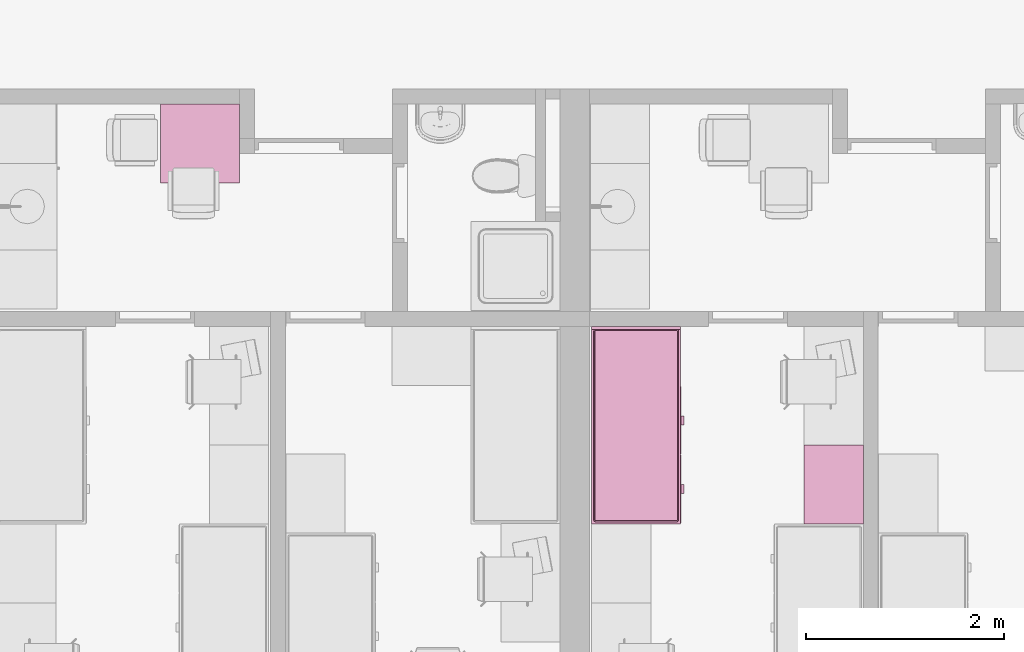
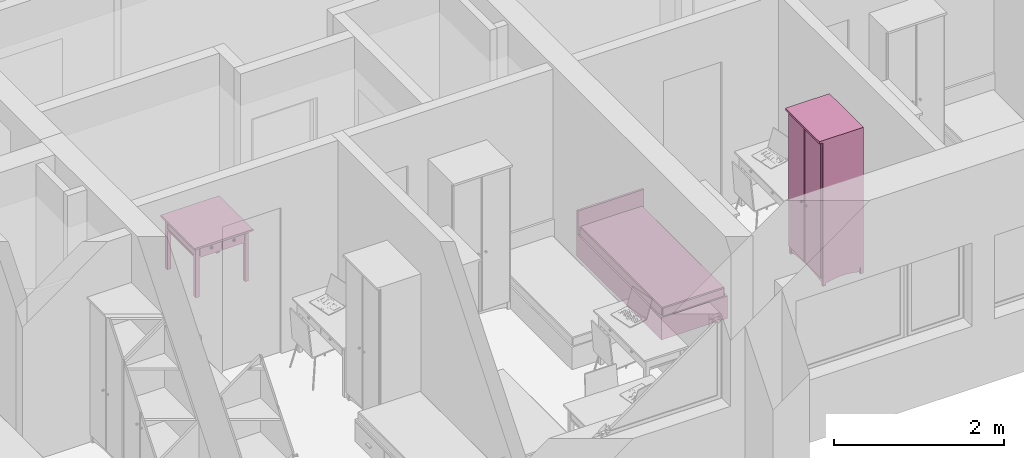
# One storey, part 64 of 165: 3 furnishings.
"""IFC2X3 building model written with IfcOpenShell, lengths in millimetres."""

from ifc_helpers import new_model, entity, si_unit, converted_unit, money_unit, direction, frame, origin_with_axes, place, context, subcontext, project, spatial, faceted_brep, source, transform, mapped, material, material_list, type_object, element, save


model = new_model("IFC2X3")

# Units and contexts
model_context = context("Model", 3, precision=1e-05, world=origin_with_axes(), true_north=direction((0.0, 1.0)))
body_context = subcontext(model_context, "Body", "Model", "MODEL_VIEW")
ifc_project = project(units=[si_unit("LENGTHUNIT", "METRE", prefix="MILLI"), si_unit("AREAUNIT", "SQUARE_METRE"), si_unit("VOLUMEUNIT", "CUBIC_METRE"), converted_unit("PLANEANGLEUNIT", "DEGREE", entity("IfcPlaneAngleMeasure", 0.0174532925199), si_unit("PLANEANGLEUNIT", "RADIAN"), dimensions=[0, 0, 0, 0, 0, 0, 0]), si_unit("SOLIDANGLEUNIT", "STERADIAN"), money_unit("USD"), converted_unit("TIMEUNIT", "Year", entity("IfcTimeMeasure", 31556926.0), si_unit("TIMEUNIT", "SECOND"), dimensions=[0, 0, 0, 0, 0, 0, 0]), si_unit("MASSUNIT", "GRAM"), si_unit("THERMODYNAMICTEMPERATUREUNIT", "DEGREE_CELSIUS"), si_unit("LUMINOUSINTENSITYUNIT", "LUMEN")], contexts=[model_context])

# Site, building, storey
site_placement = place(None, origin_with_axes())
site = spatial("IfcSite", under=ifc_project, at=site_placement, Name="Site", CompositionType="ELEMENT")
building_placement = place(site_placement, origin_with_axes())
building = spatial("IfcBuilding", under=site, at=building_placement, Name="Building", CompositionType="ELEMENT")
storey_placement = place(building_placement, frame((0.0, 0.0, 6300.0), z_axis=(0.0, 0.0, 1.0), x_axis=(1.0, 0.0, 0.0)))
storey = spatial("IfcBuildingStorey", under=building, at=storey_placement, Name="4KORRUS", CompositionType="ELEMENT", Elevation=6300.0)

# Furnishings
ifc_material = material(Name="Background")
ifc_material_list = material_list([ifc_material])
furnishing_element_type_1 = type_object("IfcFurnishingElementType", Name="Bed 19")
shared_shape_1 = source(origin_with_axes(), body_context, "Body", "Brep", [
    faceted_brep([(900.0, 1970.0, 0.0), (0.0, 1970.0, 0.0), (0.0, 2000.0, 0.0), (900.0, 2000.0, 0.0), (900.0, 1970.0, 660.0), (0.0, 1970.0, 660.0), (0.0, 2000.0, 660.0), (900.0, 2000.0, 660.0)], [[[0, 1, 2, 3]], [[1, 0, 4, 5]], [[2, 1, 5, 6]], [[3, 2, 6, 7]], [[0, 3, 7, 4]], [[5, 4, 7, 6]]]),
    faceted_brep([(900.0, 0.0, 0.0), (0.0, 0.0, 0.0), (0.0, 1970.0, 0.0), (900.0, 1970.0, 0.0), (900.0, 0.0, 320.0), (0.0, 0.0, 320.0), (0.0, 1970.0, 320.0), (900.0, 1970.0, 320.0)], [[[0, 1, 2, 3]], [[1, 0, 4, 5]], [[2, 1, 5, 6]], [[3, 2, 6, 7]], [[0, 3, 7, 4]], [[5, 4, 7, 6]]]),
    faceted_brep([(905.0, 10.0, 30.0), (900.0, 10.0, 30.0), (900.0, 695.0, 30.0), (905.0, 695.0, 30.0), (905.0, 10.0, 290.0), (900.0, 10.0, 290.0), (900.0, 695.0, 290.0), (905.0, 695.0, 290.0)], [[[0, 1, 2, 3]], [[1, 0, 4, 5]], [[2, 1, 5, 6]], [[3, 2, 6, 7]], [[0, 3, 7, 4]], [[5, 4, 7, 6]]]),
    faceted_brep([(935.0, 307.5, 150.0), (905.0, 307.5, 150.0), (905.0, 397.5, 150.0), (935.0, 397.5, 150.0), (935.0, 307.5, 170.0), (905.0, 307.5, 170.0), (905.0, 397.5, 170.0), (935.0, 397.5, 170.0)], [[[0, 1, 2, 3]], [[1, 0, 4, 5]], [[2, 1, 5, 6]], [[3, 2, 6, 7]], [[0, 3, 7, 4]], [[5, 4, 7, 6]]]),
    faceted_brep([(905.0, 705.0, 30.0), (900.0, 705.0, 30.0), (900.0, 1390.0, 30.0), (905.0, 1390.0, 30.0), (905.0, 705.0, 290.0), (900.0, 705.0, 290.0), (900.0, 1390.0, 290.0), (905.0, 1390.0, 290.0)], [[[0, 1, 2, 3]], [[1, 0, 4, 5]], [[2, 1, 5, 6]], [[3, 2, 6, 7]], [[0, 3, 7, 4]], [[5, 4, 7, 6]]]),
    faceted_brep([(935.0, 1002.5, 150.0), (905.0, 1002.5, 150.0), (905.0, 1092.5, 150.0), (935.0, 1092.5, 150.0), (935.0, 1002.5, 170.0), (905.0, 1002.5, 170.0), (905.0, 1092.5, 170.0), (935.0, 1092.5, 170.0)], [[[0, 1, 2, 3]], [[1, 0, 4, 5]], [[2, 1, 5, 6]], [[3, 2, 6, 7]], [[0, 3, 7, 4]], [[5, 4, 7, 6]]]),
    faceted_brep([(20.0, 40.0, 350.0), (20.0, 1950.0, 350.0), (21.522, 1957.654, 350.0), (25.858, 1964.142, 350.0), (32.346, 1968.478, 350.0), (40.0, 1970.0, 350.0), (860.0, 1970.0, 350.0), (867.654, 1968.478, 350.0), (874.142, 1964.142, 350.0), (878.478, 1957.654, 350.0), (880.0, 1950.0, 350.0), (880.0, 40.0, 350.0), (878.478, 32.346, 350.0), (874.142, 25.858, 350.0), (867.654, 21.522, 350.0), (860.0, 20.0, 350.0), (40.0, 20.0, 350.0), (32.346, 21.522, 350.0), (25.858, 25.858, 350.0), (21.522, 32.346, 350.0), (20.0, 40.0, 420.0), (20.0, 1950.0, 420.0), (21.522, 1957.654, 420.0), (25.858, 1964.142, 420.0), (32.346, 1968.478, 420.0), (40.0, 1970.0, 420.0), (860.0, 1970.0, 420.0), (867.654, 1968.478, 420.0), (874.142, 1964.142, 420.0), (878.478, 1957.654, 420.0), (880.0, 1950.0, 420.0), (880.0, 40.0, 420.0), (878.478, 32.346, 420.0), (874.142, 25.858, 420.0), (867.654, 21.522, 420.0), (860.0, 20.0, 420.0), (40.0, 20.0, 420.0), (32.346, 21.522, 420.0), (25.858, 25.858, 420.0), (21.522, 32.346, 420.0), (21.522, 40.15, 427.654), (21.522, 1949.85, 427.654), (22.956, 1957.06, 427.654), (26.955, 1963.045, 427.654), (32.94, 1967.044, 427.654), (40.15, 1968.478, 427.654), (859.85, 1968.478, 427.654), (867.06, 1967.044, 427.654), (873.045, 1963.045, 427.654), (877.044, 1957.06, 427.654), (878.478, 1949.85, 427.654), (878.478, 40.15, 427.654), (877.044, 32.94, 427.654), (873.045, 26.955, 427.654), (867.06, 22.956, 427.654), (859.85, 21.522, 427.654), (40.15, 21.522, 427.654), (32.94, 22.956, 427.654), (26.955, 26.955, 427.654), (22.956, 32.94, 427.654), (32.346, 41.216, 438.478), (32.346, 1948.784, 438.478), (33.152, 1952.836, 438.478), (34.759, 1955.241, 438.478), (37.164, 1956.848, 438.478), (41.216, 1957.654, 438.478), (858.784, 1957.654, 438.478), (862.836, 1956.848, 438.478), (865.241, 1955.241, 438.478), (866.848, 1952.836, 438.478), (867.654, 1948.784, 438.478), (867.654, 41.216, 438.478), (866.848, 37.164, 438.478), (865.241, 34.759, 438.478), (862.836, 33.152, 438.478), (858.784, 32.346, 438.478), (41.216, 32.346, 438.478), (37.164, 33.152, 438.478), (34.759, 34.759, 438.478), (33.152, 37.164, 438.478), (40.0, 41.97, 440.0), (40.0, 1948.03, 440.0), (40.327, 1949.673, 440.0), (40.0, 1950.0, 439.924), (41.97, 1950.0, 440.0), (858.03, 1950.0, 440.0), (859.673, 1949.673, 440.0), (860.0, 1950.0, 439.924), (860.0, 1948.03, 440.0), (860.0, 41.97, 440.0), (859.673, 40.327, 440.0), (860.0, 40.0, 439.924), (858.03, 40.0, 440.0), (41.97, 40.0, 440.0), (40.327, 40.327, 440.0), (40.0, 40.0, 439.924)], [[[0, 1, 2, 3, 4, 5, 6, 7, 8, 9, 10, 11, 12, 13, 14, 15, 16, 17, 18, 19]], [[1, 0, 20, 21]], [[2, 1, 21, 22]], [[3, 2, 22, 23]], [[4, 3, 23, 24]], [[5, 4, 24, 25]], [[6, 5, 25, 26]], [[7, 6, 26, 27]], [[8, 7, 27, 28]], [[9, 8, 28, 29]], [[10, 9, 29, 30]], [[11, 10, 30, 31]], [[12, 11, 31, 32]], [[13, 12, 32, 33]], [[14, 13, 33, 34]], [[15, 14, 34, 35]], [[16, 15, 35, 36]], [[17, 16, 36, 37]], [[18, 17, 37, 38]], [[19, 18, 38, 39]], [[0, 19, 39, 20]], [[21, 20, 40, 41]], [[22, 21, 41, 42]], [[23, 22, 42, 43]], [[24, 23, 43, 44]], [[25, 24, 44, 45]], [[26, 25, 45, 46]], [[27, 26, 46, 47]], [[28, 27, 47, 48]], [[29, 28, 48, 49]], [[30, 29, 49, 50]], [[31, 30, 50, 51]], [[32, 31, 51, 52]], [[33, 32, 52, 53]], [[34, 33, 53, 54]], [[35, 34, 54, 55]], [[36, 35, 55, 56]], [[37, 36, 56, 57]], [[38, 37, 57, 58]], [[39, 38, 58, 59]], [[20, 39, 59, 40]], [[41, 40, 60, 61]], [[42, 41, 61, 62]], [[43, 42, 62, 63]], [[44, 43, 63, 64]], [[45, 44, 64, 65]], [[46, 45, 65, 66]], [[47, 46, 66, 67]], [[48, 47, 67, 68]], [[49, 48, 68, 69]], [[50, 49, 69, 70]], [[51, 50, 70, 71]], [[52, 51, 71, 72]], [[53, 52, 72, 73]], [[54, 53, 73, 74]], [[55, 54, 74, 75]], [[56, 55, 75, 76]], [[57, 56, 76, 77]], [[58, 57, 77, 78]], [[59, 58, 78, 79]], [[40, 59, 79, 60]], [[61, 60, 80, 81]], [[62, 61, 81, 82, 83]], [[63, 62, 83]], [[64, 63, 83]], [[65, 64, 83, 82, 84]], [[66, 65, 84, 85]], [[67, 66, 85, 86, 87]], [[68, 67, 87]], [[69, 68, 87]], [[70, 69, 87, 86, 88]], [[71, 70, 88, 89]], [[72, 71, 89, 90, 91]], [[73, 72, 91]], [[74, 73, 91]], [[75, 74, 91, 90, 92]], [[76, 75, 92, 93]], [[77, 76, 93, 94, 95]], [[78, 77, 95]], [[79, 78, 95]], [[60, 79, 95, 94, 80]], [[81, 80, 94, 93, 92, 90, 89, 88, 86, 85, 84, 82]]]),
    faceted_brep([(20.0, 40.0, 350.0), (21.522, 32.346, 350.0), (25.858, 25.858, 350.0), (32.346, 21.522, 350.0), (40.0, 20.0, 350.0), (860.0, 20.0, 350.0), (867.654, 21.522, 350.0), (874.142, 25.858, 350.0), (878.478, 32.346, 350.0), (880.0, 40.0, 350.0), (880.0, 1950.0, 350.0), (878.478, 1957.654, 350.0), (874.142, 1964.142, 350.0), (867.654, 1968.478, 350.0), (860.0, 1970.0, 350.0), (40.0, 1970.0, 350.0), (32.346, 1968.478, 350.0), (25.858, 1964.142, 350.0), (21.522, 1957.654, 350.0), (20.0, 1950.0, 350.0), (20.0, 40.0, 320.0), (21.522, 32.346, 320.0), (25.858, 25.858, 320.0), (32.346, 21.522, 320.0), (40.0, 20.0, 320.0), (860.0, 20.0, 320.0), (867.654, 21.522, 320.0), (874.142, 25.858, 320.0), (878.478, 32.346, 320.0), (880.0, 40.0, 320.0), (880.0, 1950.0, 320.0), (878.478, 1957.654, 320.0), (874.142, 1964.142, 320.0), (867.654, 1968.478, 320.0), (860.0, 1970.0, 320.0), (40.0, 1970.0, 320.0), (32.346, 1968.478, 320.0), (25.858, 1964.142, 320.0), (21.522, 1957.654, 320.0), (20.0, 1950.0, 320.0)], [[[0, 1, 2, 3, 4, 5, 6, 7, 8, 9, 10, 11, 12, 13, 14, 15, 16, 17, 18, 19]], [[0, 20, 21, 1]], [[1, 21, 22, 2]], [[2, 22, 23, 3]], [[3, 23, 24, 4]], [[4, 24, 25, 5]], [[5, 25, 26, 6]], [[6, 26, 27, 7]], [[7, 27, 28, 8]], [[8, 28, 29, 9]], [[9, 29, 30, 10]], [[10, 30, 31, 11]], [[11, 31, 32, 12]], [[12, 32, 33, 13]], [[13, 33, 34, 14]], [[14, 34, 35, 15]], [[15, 35, 36, 16]], [[16, 36, 37, 17]], [[17, 37, 38, 18]], [[18, 38, 39, 19]], [[19, 39, 20, 0]], [[20, 39, 38, 37, 36, 35, 34, 33, 32, 31, 30, 29, 28, 27, 26, 25, 24, 23, 22, 21]]]),
])
furnishing_1_placement = place(storey_placement, frame((-41970.2967033, -17439.2398994, 0.0), z_axis=(0.0, 0.0, 1.0), x_axis=(1.0, 0.0, 0.0)))
element("IfcFurnishingElement", 1, at=furnishing_1_placement, inside=storey, type_object=furnishing_element_type_1, material=ifc_material_list, Name="FU - 013", context=body_context, shape_type="MappedRepresentation", body=[
    mapped(shared_shape_1, transform((0.0, 0.0, 0.0))),
])
furnishing_element_type_2 = type_object("IfcFurnishingElementType", Name="Cupboard 19")
shared_shape_2 = source(origin_with_axes(), body_context, "Body", "Brep", [
    faceted_brep([(780.0, 600.0, 120.0), (780.0, 600.0, 2050.0), (780.0, 580.0, 2050.0), (780.0, 580.0, 120.0), (20.0, 600.0, 120.0), (20.0, 600.0, 2050.0), (20.0, 580.0, 2050.0), (20.0, 580.0, 120.0)], [[[0, 1, 2, 3]], [[4, 5, 1, 0]], [[1, 5, 6, 2]], [[3, 2, 6, 7]], [[0, 3, 7, 4]], [[7, 6, 5, 4]]]),
    faceted_brep([(0.0, 50.0, 100.0), (0.0, 600.0, 100.0), (20.0, 600.0, 100.0), (20.0, 50.0, 100.0), (0.0, 50.0, 2070.0), (0.0, 600.0, 2070.0), (20.0, 600.0, 2070.0), (20.0, 50.0, 2070.0)], [[[0, 1, 2, 3]], [[0, 4, 5, 1]], [[1, 5, 6, 2]], [[2, 6, 7, 3]], [[3, 7, 4, 0]], [[7, 6, 5, 4]]]),
    faceted_brep([(780.0, 50.0, 100.0), (780.0, 600.0, 100.0), (800.0, 600.0, 100.0), (800.0, 50.0, 100.0), (780.0, 50.0, 2070.0), (780.0, 600.0, 2070.0), (800.0, 600.0, 2070.0), (800.0, 50.0, 2070.0)], [[[0, 1, 2, 3]], [[0, 4, 5, 1]], [[1, 5, 6, 2]], [[2, 6, 7, 3]], [[3, 7, 4, 0]], [[7, 6, 5, 4]]]),
    faceted_brep([(20.0, 50.0, 100.0), (20.0, 600.0, 100.0), (780.0, 600.0, 100.0), (780.0, 50.0, 100.0), (20.0, 50.0, 120.0), (20.0, 600.0, 120.0), (780.0, 600.0, 120.0), (780.0, 50.0, 120.0)], [[[0, 1, 2, 3]], [[0, 4, 5, 1]], [[1, 5, 6, 2]], [[2, 6, 7, 3]], [[3, 7, 4, 0]], [[7, 6, 5, 4]]]),
    faceted_brep([(20.0, 50.0, 2050.0), (20.0, 600.0, 2050.0), (780.0, 600.0, 2050.0), (780.0, 50.0, 2050.0), (20.0, 50.0, 2070.0), (20.0, 600.0, 2070.0), (780.0, 600.0, 2070.0), (780.0, 50.0, 2070.0)], [[[0, 1, 2, 3]], [[0, 4, 5, 1]], [[1, 5, 6, 2]], [[2, 6, 7, 3]], [[3, 7, 4, 0]], [[7, 6, 5, 4]]]),
    faceted_brep([(0.0, 600.0, 2070.0), (0.0, 0.0, 2070.0), (0.0, 0.0, 2100.0), (0.0, 600.0, 2100.0), (800.0, 600.0, 2070.0), (800.0, 0.0, 2070.0), (800.0, 0.0, 2100.0), (800.0, 600.0, 2100.0)], [[[0, 1, 2, 3]], [[0, 4, 5, 1]], [[1, 5, 6, 2]], [[3, 2, 6, 7]], [[4, 0, 3, 7]], [[5, 4, 7, 6]]]),
    faceted_brep([(760.0, 590.0, 25.0), (760.0, 570.0, 25.0), (640.962, 570.0, 45.8), (640.962, 590.0, 45.8), (760.0, 590.0, 100.0), (760.0, 570.0, 100.0), (40.0, 570.0, 100.0), (40.0, 570.0, 25.0), (159.038, 570.0, 45.8), (279.23, 570.0, 58.32), (400.0, 570.0, 62.5), (520.77, 570.0, 58.32), (520.77, 590.0, 58.32), (400.0, 590.0, 62.5), (279.23, 590.0, 58.32), (159.038, 590.0, 45.8), (40.0, 590.0, 25.0), (40.0, 590.0, 100.0)], [[[0, 1, 2, 3]], [[4, 5, 1, 0]], [[1, 5, 6, 7, 8, 9, 10, 11, 2]], [[3, 2, 11, 12]], [[0, 3, 12, 13, 14, 15, 16, 17, 4]], [[17, 6, 5, 4]], [[16, 7, 6, 17]], [[15, 8, 7, 16]], [[14, 9, 8, 15]], [[13, 10, 9, 14]], [[12, 11, 10, 13]]]),
    faceted_brep([(760.0, 80.0, 25.0), (760.0, 60.0, 25.0), (640.962, 60.0, 45.8), (640.962, 80.0, 45.8), (760.0, 80.0, 100.0), (760.0, 60.0, 100.0), (40.0, 60.0, 100.0), (40.0, 60.0, 25.0), (159.038, 60.0, 45.8), (279.23, 60.0, 58.32), (400.0, 60.0, 62.5), (520.77, 60.0, 58.32), (520.77, 80.0, 58.32), (400.0, 80.0, 62.5), (279.23, 80.0, 58.32), (159.038, 80.0, 45.8), (40.0, 80.0, 25.0), (40.0, 80.0, 100.0)], [[[0, 1, 2, 3]], [[4, 5, 1, 0]], [[1, 5, 6, 7, 8, 9, 10, 11, 2]], [[3, 2, 11, 12]], [[0, 3, 12, 13, 14, 15, 16, 17, 4]], [[17, 6, 5, 4]], [[16, 7, 6, 17]], [[15, 8, 7, 16]], [[14, 9, 8, 15]], [[13, 10, 9, 14]], [[12, 11, 10, 13]]]),
    faceted_brep([(790.0, 90.0, 25.0), (770.0, 90.0, 25.0), (770.0, 141.266, 38.072), (790.0, 141.266, 38.072), (790.0, 90.0, 100.0), (770.0, 90.0, 100.0), (770.0, 560.0, 100.0), (770.0, 560.0, 25.0), (770.0, 508.734, 38.072), (770.0, 456.752, 47.92), (770.0, 404.257, 54.508), (770.0, 351.453, 57.808), (770.0, 298.547, 57.808), (770.0, 245.743, 54.508), (770.0, 193.248, 47.92), (790.0, 193.248, 47.92), (790.0, 245.743, 54.508), (790.0, 298.547, 57.808), (790.0, 351.453, 57.808), (790.0, 404.257, 54.508), (790.0, 456.752, 47.92), (790.0, 508.734, 38.072), (790.0, 560.0, 25.0), (790.0, 560.0, 100.0)], [[[0, 1, 2, 3]], [[4, 5, 1, 0]], [[1, 5, 6, 7, 8, 9, 10, 11, 12, 13, 14, 2]], [[3, 2, 14, 15]], [[0, 3, 15, 16, 17, 18, 19, 20, 21, 22, 23, 4]], [[23, 6, 5, 4]], [[22, 7, 6, 23]], [[21, 8, 7, 22]], [[20, 9, 8, 21]], [[19, 10, 9, 20]], [[18, 11, 10, 19]], [[17, 12, 11, 18]], [[16, 13, 12, 17]], [[15, 14, 13, 16]]]),
    faceted_brep([(30.0, 90.0, 25.0), (10.0, 90.0, 25.0), (10.0, 141.266, 38.072), (30.0, 141.266, 38.072), (30.0, 90.0, 100.0), (10.0, 90.0, 100.0), (10.0, 560.0, 100.0), (10.0, 560.0, 25.0), (10.0, 508.734, 38.072), (10.0, 456.752, 47.92), (10.0, 404.257, 54.508), (10.0, 351.453, 57.808), (10.0, 298.547, 57.808), (10.0, 245.743, 54.508), (10.0, 193.248, 47.92), (30.0, 193.248, 47.92), (30.0, 245.743, 54.508), (30.0, 298.547, 57.808), (30.0, 351.453, 57.808), (30.0, 404.257, 54.508), (30.0, 456.752, 47.92), (30.0, 508.734, 38.072), (30.0, 560.0, 25.0), (30.0, 560.0, 100.0)], [[[0, 1, 2, 3]], [[4, 5, 1, 0]], [[1, 5, 6, 7, 8, 9, 10, 11, 12, 13, 14, 2]], [[3, 2, 14, 15]], [[0, 3, 15, 16, 17, 18, 19, 20, 21, 22, 23, 4]], [[23, 6, 5, 4]], [[22, 7, 6, 23]], [[21, 8, 7, 22]], [[20, 9, 8, 21]], [[19, 10, 9, 20]], [[18, 11, 10, 19]], [[17, 12, 11, 18]], [[16, 13, 12, 17]], [[15, 14, 13, 16]]]),
    faceted_brep([(760.0, 560.0, 0.0), (760.0, 560.0, 100.0), (760.0, 600.0, 100.0), (760.0, 600.0, 0.0), (800.0, 560.0, 0.0), (800.0, 560.0, 100.0), (800.0, 600.0, 100.0), (800.0, 600.0, 0.0)], [[[0, 1, 2, 3]], [[4, 5, 1, 0]], [[1, 5, 6, 2]], [[3, 2, 6, 7]], [[0, 3, 7, 4]], [[7, 6, 5, 4]]]),
    faceted_brep([(0.0, 560.0, 0.0), (0.0, 560.0, 100.0), (0.0, 600.0, 100.0), (0.0, 600.0, 0.0), (40.0, 560.0, 0.0), (40.0, 560.0, 100.0), (40.0, 600.0, 100.0), (40.0, 600.0, 0.0)], [[[0, 1, 2, 3]], [[4, 5, 1, 0]], [[1, 5, 6, 2]], [[3, 2, 6, 7]], [[0, 3, 7, 4]], [[7, 6, 5, 4]]]),
    faceted_brep([(760.0, 50.0, 0.0), (760.0, 50.0, 100.0), (760.0, 90.0, 100.0), (760.0, 90.0, 0.0), (800.0, 50.0, 0.0), (800.0, 50.0, 100.0), (800.0, 90.0, 100.0), (800.0, 90.0, 0.0)], [[[0, 1, 2, 3]], [[4, 5, 1, 0]], [[1, 5, 6, 2]], [[3, 2, 6, 7]], [[0, 3, 7, 4]], [[7, 6, 5, 4]]]),
    faceted_brep([(0.0, 50.0, 0.0), (0.0, 50.0, 100.0), (0.0, 90.0, 100.0), (0.0, 90.0, 0.0), (40.0, 50.0, 0.0), (40.0, 50.0, 100.0), (40.0, 90.0, 100.0), (40.0, 90.0, 0.0)], [[[0, 1, 2, 3]], [[4, 5, 1, 0]], [[1, 5, 6, 2]], [[3, 2, 6, 7]], [[0, 3, 7, 4]], [[7, 6, 5, 4]]]),
    faceted_brep([(780.0, 580.0, 587.5), (780.0, 580.0, 607.5), (780.0, 50.0, 607.5), (780.0, 50.0, 587.5), (20.0, 580.0, 587.5), (20.0, 580.0, 607.5), (20.0, 50.0, 607.5), (20.0, 50.0, 587.5)], [[[0, 1, 2, 3]], [[4, 5, 1, 0]], [[1, 5, 6, 2]], [[3, 2, 6, 7]], [[0, 3, 7, 4]], [[7, 6, 5, 4]]]),
    faceted_brep([(780.0, 580.0, 1075.0), (780.0, 580.0, 1095.0), (780.0, 50.0, 1095.0), (780.0, 50.0, 1075.0), (20.0, 580.0, 1075.0), (20.0, 580.0, 1095.0), (20.0, 50.0, 1095.0), (20.0, 50.0, 1075.0)], [[[0, 1, 2, 3]], [[4, 5, 1, 0]], [[1, 5, 6, 2]], [[3, 2, 6, 7]], [[0, 3, 7, 4]], [[7, 6, 5, 4]]]),
    faceted_brep([(780.0, 580.0, 1562.5), (780.0, 580.0, 1582.5), (780.0, 50.0, 1582.5), (780.0, 50.0, 1562.5), (20.0, 580.0, 1562.5), (20.0, 580.0, 1582.5), (20.0, 50.0, 1582.5), (20.0, 50.0, 1562.5)], [[[0, 1, 2, 3]], [[4, 5, 1, 0]], [[1, 5, 6, 2]], [[3, 2, 6, 7]], [[0, 3, 7, 4]], [[7, 6, 5, 4]]]),
    faceted_brep([(789.5, 50.0, 110.5), (400.5, 50.0, 110.5), (400.5, 50.0, 2059.5), (789.5, 50.0, 2059.5), (789.5, 40.0, 110.5), (400.5, 40.0, 110.5), (400.5, 40.0, 2059.5), (789.5, 40.0, 2059.5), (779.5, 30.0, 120.5), (410.5, 30.0, 120.5), (410.5, 30.0, 2049.5), (779.5, 30.0, 2049.5)], [[[0, 1, 2, 3]], [[0, 4, 5, 1]], [[1, 5, 6, 2]], [[2, 6, 7, 3]], [[3, 7, 4, 0]], [[4, 8, 9, 5]], [[5, 9, 10, 6]], [[6, 10, 11, 7]], [[7, 11, 8, 4]], [[10, 9, 8, 11]]]),
    faceted_brep([(399.5, 50.0, 110.5), (10.5, 50.0, 110.5), (10.5, 50.0, 2059.5), (399.5, 50.0, 2059.5), (399.5, 40.0, 110.5), (10.5, 40.0, 110.5), (10.5, 40.0, 2059.5), (399.5, 40.0, 2059.5), (389.5, 30.0, 120.5), (20.5, 30.0, 120.5), (20.5, 30.0, 2049.5), (389.5, 30.0, 2049.5)], [[[0, 1, 2, 3]], [[0, 4, 5, 1]], [[1, 5, 6, 2]], [[2, 6, 7, 3]], [[3, 7, 4, 0]], [[4, 8, 9, 5]], [[5, 9, 10, 6]], [[6, 10, 11, 7]], [[7, 11, 8, 4]], [[10, 9, 8, 11]]]),
    faceted_brep([(339.608, 30.0, 954.0), (338.0, 30.0, 960.0), (339.608, 30.0, 966.0), (344.0, 30.0, 970.392), (350.0, 30.0, 972.0), (356.0, 30.0, 970.392), (360.392, 30.0, 966.0), (362.0, 30.0, 960.0), (360.392, 30.0, 954.0), (356.0, 30.0, 949.608), (350.0, 30.0, 948.0), (344.0, 30.0, 949.608), (339.608, 5.0, 954.0), (338.0, 5.0, 960.0), (339.608, 5.0, 966.0), (344.0, 5.0, 970.392), (350.0, 5.0, 972.0), (356.0, 5.0, 970.392), (360.392, 5.0, 966.0), (362.0, 5.0, 960.0), (360.392, 5.0, 954.0), (356.0, 5.0, 949.608), (350.0, 5.0, 948.0), (344.0, 5.0, 949.608)], [[[0, 1, 2, 3, 4, 5, 6, 7, 8, 9, 10, 11]], [[0, 12, 13, 1]], [[1, 13, 14, 2]], [[2, 14, 15, 3]], [[3, 15, 16, 4]], [[4, 16, 17, 5]], [[5, 17, 18, 6]], [[6, 18, 19, 7]], [[7, 19, 20, 8]], [[8, 20, 21, 9]], [[9, 21, 22, 10]], [[10, 22, 23, 11]], [[11, 23, 12, 0]], [[12, 23, 22, 21, 20, 19, 18, 17, 16, 15, 14, 13]]]),
    faceted_brep([(460.392, 30.0, 954.0), (456.0, 30.0, 949.608), (450.0, 30.0, 948.0), (444.0, 30.0, 949.608), (439.608, 30.0, 954.0), (438.0, 30.0, 960.0), (439.608, 30.0, 966.0), (444.0, 30.0, 970.392), (450.0, 30.0, 972.0), (456.0, 30.0, 970.392), (460.392, 30.0, 966.0), (462.0, 30.0, 960.0), (460.392, 5.0, 954.0), (456.0, 5.0, 949.608), (450.0, 5.0, 948.0), (444.0, 5.0, 949.608), (439.608, 5.0, 954.0), (438.0, 5.0, 960.0), (439.608, 5.0, 966.0), (444.0, 5.0, 970.392), (450.0, 5.0, 972.0), (456.0, 5.0, 970.392), (460.392, 5.0, 966.0), (462.0, 5.0, 960.0)], [[[0, 1, 2, 3, 4, 5, 6, 7, 8, 9, 10, 11]], [[1, 0, 12, 13]], [[2, 1, 13, 14]], [[3, 2, 14, 15]], [[4, 3, 15, 16]], [[5, 4, 16, 17]], [[6, 5, 17, 18]], [[7, 6, 18, 19]], [[8, 7, 19, 20]], [[9, 8, 20, 21]], [[10, 9, 21, 22]], [[11, 10, 22, 23]], [[0, 11, 23, 12]], [[12, 23, 22, 21, 20, 19, 18, 17, 16, 15, 14, 13]]]),
])
furnishing_2_placement = place(storey_placement, frame((-39820.2967033, -16639.2398994, 0.0), z_axis=(0.0, 0.0, 1.0), x_axis=(0.0, -1.0, 0.0)))
element("IfcFurnishingElement", 2, at=furnishing_2_placement, inside=storey, type_object=furnishing_element_type_2, material=ifc_material_list, Name="FU - 014", context=body_context, shape_type="MappedRepresentation", body=[
    mapped(shared_shape_2, transform((0.0, 0.0, 0.0))),
])
furnishing_element_type_3 = type_object("IfcFurnishingElementType", Name="Rectangular Table 01 19")
shared_shape_3 = source(origin_with_axes(), body_context, "Body", "Brep", [
    faceted_brep([(90.0, 40.0, 0.0), (40.0, 40.0, 0.0), (40.0, 90.0, 0.0), (90.0, 90.0, 0.0), (90.0, 40.0, 725.0), (40.0, 40.0, 725.0), (40.0, 90.0, 725.0), (90.0, 90.0, 725.0)], [[[0, 1, 2, 3]], [[1, 0, 4, 5]], [[2, 1, 5, 6]], [[3, 2, 6, 7]], [[0, 3, 7, 4]], [[5, 4, 7, 6]]]),
    faceted_brep([(760.0, 40.0, 0.0), (710.0, 40.0, 0.0), (710.0, 90.0, 0.0), (760.0, 90.0, 0.0), (760.0, 40.0, 725.0), (710.0, 40.0, 725.0), (710.0, 90.0, 725.0), (760.0, 90.0, 725.0)], [[[0, 1, 2, 3]], [[1, 0, 4, 5]], [[2, 1, 5, 6]], [[3, 2, 6, 7]], [[0, 3, 7, 4]], [[5, 4, 7, 6]]]),
    faceted_brep([(90.0, 710.0, 0.0), (40.0, 710.0, 0.0), (40.0, 760.0, 0.0), (90.0, 760.0, 0.0), (90.0, 710.0, 725.0), (40.0, 710.0, 725.0), (40.0, 760.0, 725.0), (90.0, 760.0, 725.0)], [[[0, 1, 2, 3]], [[1, 0, 4, 5]], [[2, 1, 5, 6]], [[3, 2, 6, 7]], [[0, 3, 7, 4]], [[5, 4, 7, 6]]]),
    faceted_brep([(760.0, 710.0, 0.0), (710.0, 710.0, 0.0), (710.0, 760.0, 0.0), (760.0, 760.0, 0.0), (760.0, 710.0, 725.0), (710.0, 710.0, 725.0), (710.0, 760.0, 725.0), (760.0, 760.0, 725.0)], [[[0, 1, 2, 3]], [[1, 0, 4, 5]], [[2, 1, 5, 6]], [[3, 2, 6, 7]], [[0, 3, 7, 4]], [[5, 4, 7, 6]]]),
    faceted_brep([(760.0, 40.0, 565.0), (40.0, 40.0, 565.0), (40.0, 760.0, 565.0), (760.0, 760.0, 565.0), (760.0, 40.0, 585.0), (40.0, 40.0, 585.0), (40.0, 760.0, 585.0), (760.0, 760.0, 585.0)], [[[0, 1, 2, 3]], [[1, 0, 4, 5]], [[2, 1, 5, 6]], [[3, 2, 6, 7]], [[0, 3, 7, 4]], [[5, 4, 7, 6]]]),
    faceted_brep([(710.0, 52.5, 585.0), (90.0, 52.5, 585.0), (90.0, 77.5, 585.0), (710.0, 77.5, 585.0), (710.0, 52.5, 745.0), (90.0, 52.5, 745.0), (90.0, 77.5, 745.0), (710.0, 77.5, 745.0)], [[[0, 1, 2, 3]], [[1, 0, 4, 5]], [[2, 1, 5, 6]], [[3, 2, 6, 7]], [[0, 3, 7, 4]], [[5, 4, 7, 6]]]),
    faceted_brep([(77.5, 90.0, 585.0), (52.5, 90.0, 585.0), (52.5, 710.0, 585.0), (77.5, 710.0, 585.0), (77.5, 90.0, 745.0), (52.5, 90.0, 745.0), (52.5, 710.0, 745.0), (77.5, 710.0, 745.0)], [[[0, 1, 2, 3]], [[1, 0, 4, 5]], [[2, 1, 5, 6]], [[3, 2, 6, 7]], [[0, 3, 7, 4]], [[5, 4, 7, 6]]]),
    faceted_brep([(90.0, 747.5, 585.0), (710.0, 747.5, 585.0), (710.0, 722.5, 585.0), (90.0, 722.5, 585.0), (90.0, 747.5, 745.0), (710.0, 747.5, 745.0), (710.0, 722.5, 745.0), (90.0, 722.5, 745.0)], [[[0, 1, 2, 3]], [[1, 0, 4, 5]], [[2, 1, 5, 6]], [[3, 2, 6, 7]], [[0, 3, 7, 4]], [[5, 4, 7, 6]]]),
    faceted_brep([(722.5, 710.0, 585.0), (747.5, 710.0, 585.0), (747.5, 90.0, 585.0), (722.5, 90.0, 585.0), (722.5, 710.0, 745.0), (747.5, 710.0, 745.0), (747.5, 90.0, 745.0), (722.5, 90.0, 745.0)], [[[0, 1, 2, 3]], [[1, 0, 4, 5]], [[2, 1, 5, 6]], [[3, 2, 6, 7]], [[0, 3, 7, 4]], [[5, 4, 7, 6]]]),
    faceted_brep([(397.5, 40.0, 585.0), (95.0, 40.0, 585.0), (95.0, 60.0, 585.0), (397.5, 60.0, 585.0), (397.5, 40.0, 745.0), (95.0, 40.0, 745.0), (95.0, 60.0, 745.0), (397.5, 60.0, 745.0)], [[[0, 1, 2, 3]], [[1, 0, 4, 5]], [[2, 1, 5, 6]], [[3, 2, 6, 7]], [[0, 3, 7, 4]], [[5, 4, 7, 6]]]),
    faceted_brep([(705.0, 40.0, 585.0), (402.5, 40.0, 585.0), (402.5, 60.0, 585.0), (705.0, 60.0, 585.0), (705.0, 40.0, 745.0), (402.5, 40.0, 745.0), (402.5, 60.0, 745.0), (705.0, 60.0, 745.0)], [[[0, 1, 2, 3]], [[1, 0, 4, 5]], [[2, 1, 5, 6]], [[3, 2, 6, 7]], [[0, 3, 7, 4]], [[5, 4, 7, 6]]]),
    faceted_brep([(254.91, 40.0, 660.0), (251.25, 40.0, 656.34), (246.25, 40.0, 655.0), (241.25, 40.0, 656.34), (237.59, 40.0, 660.0), (236.25, 40.0, 665.0), (237.59, 40.0, 670.0), (241.25, 40.0, 673.66), (246.25, 40.0, 675.0), (251.25, 40.0, 673.66), (254.91, 40.0, 670.0), (256.25, 40.0, 665.0), (254.91, 25.0, 660.0), (251.25, 25.0, 656.34), (246.25, 25.0, 655.0), (241.25, 25.0, 656.34), (237.59, 25.0, 660.0), (236.25, 25.0, 665.0), (237.59, 25.0, 670.0), (241.25, 25.0, 673.66), (246.25, 25.0, 675.0), (251.25, 25.0, 673.66), (254.91, 25.0, 670.0), (256.25, 25.0, 665.0)], [[[0, 1, 2, 3, 4, 5, 6, 7, 8, 9, 10, 11]], [[1, 0, 12, 13]], [[2, 1, 13, 14]], [[3, 2, 14, 15]], [[4, 3, 15, 16]], [[5, 4, 16, 17]], [[6, 5, 17, 18]], [[7, 6, 18, 19]], [[8, 7, 19, 20]], [[9, 8, 20, 21]], [[10, 9, 21, 22]], [[11, 10, 22, 23]], [[0, 11, 23, 12]], [[12, 23, 22, 21, 20, 19, 18, 17, 16, 15, 14, 13]]]),
    faceted_brep([(256.25, 12.01, 665.0), (246.25, 10.0, 665.0), (254.91, 12.01, 660.0), (254.91, 12.01, 670.0), (251.25, 12.01, 656.34), (263.571, 17.5, 665.0), (261.25, 17.5, 656.34), (251.25, 12.01, 673.66), (261.25, 17.5, 673.66), (246.25, 12.01, 655.0), (254.91, 17.5, 650.0), (266.25, 25.0, 665.0), (263.571, 25.0, 655.0), (246.25, 12.01, 675.0), (254.91, 17.5, 680.0), (263.571, 25.0, 675.0), (241.25, 12.01, 656.34), (246.25, 17.5, 647.679), (256.25, 25.0, 647.679), (246.25, 25.0, 645.0), (236.25, 25.0, 647.679), (228.929, 25.0, 655.0), (226.25, 25.0, 665.0), (228.929, 25.0, 675.0), (236.25, 25.0, 682.321), (246.25, 25.0, 685.0), (256.25, 25.0, 682.321), (241.25, 12.01, 673.66), (246.25, 17.5, 682.321), (237.59, 12.01, 660.0), (237.59, 17.5, 650.0), (231.25, 17.5, 656.34), (228.929, 17.5, 665.0), (231.25, 17.5, 673.66), (237.59, 17.5, 680.0), (237.59, 12.01, 670.0), (236.25, 12.01, 665.0)], [[[0, 1, 2]], [[3, 1, 0]], [[2, 1, 4]], [[5, 0, 2, 6]], [[7, 1, 3]], [[8, 3, 0, 5]], [[4, 1, 9]], [[6, 2, 4, 10]], [[11, 5, 6, 12]], [[13, 1, 7]], [[14, 7, 3, 8]], [[15, 8, 5, 11]], [[9, 1, 16]], [[10, 4, 9, 17]], [[12, 6, 10, 18]], [[12, 18, 19, 20, 21, 22, 23, 24, 25, 26, 15, 11]], [[27, 1, 13]], [[28, 13, 7, 14]], [[26, 14, 8, 15]], [[16, 1, 29]], [[17, 9, 16, 30]], [[18, 10, 17, 19]], [[19, 17, 30, 20]], [[20, 30, 31, 21]], [[21, 31, 32, 22]], [[22, 32, 33, 23]], [[23, 33, 34, 24]], [[24, 34, 28, 25]], [[25, 28, 14, 26]], [[35, 1, 27]], [[34, 27, 13, 28]], [[29, 1, 36]], [[30, 16, 29, 31]], [[31, 29, 36, 32]], [[32, 36, 35, 33]], [[33, 35, 27, 34]], [[36, 1, 35]]]),
    faceted_brep([(562.41, 40.0, 660.0), (558.75, 40.0, 656.34), (553.75, 40.0, 655.0), (548.75, 40.0, 656.34), (545.09, 40.0, 660.0), (543.75, 40.0, 665.0), (545.09, 40.0, 670.0), (548.75, 40.0, 673.66), (553.75, 40.0, 675.0), (558.75, 40.0, 673.66), (562.41, 40.0, 670.0), (563.75, 40.0, 665.0), (562.41, 25.0, 660.0), (558.75, 25.0, 656.34), (553.75, 25.0, 655.0), (548.75, 25.0, 656.34), (545.09, 25.0, 660.0), (543.75, 25.0, 665.0), (545.09, 25.0, 670.0), (548.75, 25.0, 673.66), (553.75, 25.0, 675.0), (558.75, 25.0, 673.66), (562.41, 25.0, 670.0), (563.75, 25.0, 665.0)], [[[0, 1, 2, 3, 4, 5, 6, 7, 8, 9, 10, 11]], [[1, 0, 12, 13]], [[2, 1, 13, 14]], [[3, 2, 14, 15]], [[4, 3, 15, 16]], [[5, 4, 16, 17]], [[6, 5, 17, 18]], [[7, 6, 18, 19]], [[8, 7, 19, 20]], [[9, 8, 20, 21]], [[10, 9, 21, 22]], [[11, 10, 22, 23]], [[0, 11, 23, 12]], [[12, 23, 22, 21, 20, 19, 18, 17, 16, 15, 14, 13]]]),
    faceted_brep([(563.75, 12.01, 665.0), (553.75, 10.0, 665.0), (562.41, 12.01, 660.0), (562.41, 12.01, 670.0), (558.75, 12.01, 656.34), (571.071, 17.5, 665.0), (568.75, 17.5, 656.34), (558.75, 12.01, 673.66), (568.75, 17.5, 673.66), (553.75, 12.01, 655.0), (562.41, 17.5, 650.0), (573.75, 25.0, 665.0), (571.071, 25.0, 655.0), (553.75, 12.01, 675.0), (562.41, 17.5, 680.0), (571.071, 25.0, 675.0), (548.75, 12.01, 656.34), (553.75, 17.5, 647.679), (563.75, 25.0, 647.679), (553.75, 25.0, 645.0), (543.75, 25.0, 647.679), (536.429, 25.0, 655.0), (533.75, 25.0, 665.0), (536.429, 25.0, 675.0), (543.75, 25.0, 682.321), (553.75, 25.0, 685.0), (563.75, 25.0, 682.321), (548.75, 12.01, 673.66), (553.75, 17.5, 682.321), (545.09, 12.01, 660.0), (545.09, 17.5, 650.0), (538.75, 17.5, 656.34), (536.429, 17.5, 665.0), (538.75, 17.5, 673.66), (545.09, 17.5, 680.0), (545.09, 12.01, 670.0), (543.75, 12.01, 665.0)], [[[0, 1, 2]], [[3, 1, 0]], [[2, 1, 4]], [[5, 0, 2, 6]], [[7, 1, 3]], [[8, 3, 0, 5]], [[4, 1, 9]], [[6, 2, 4, 10]], [[11, 5, 6, 12]], [[13, 1, 7]], [[14, 7, 3, 8]], [[15, 8, 5, 11]], [[9, 1, 16]], [[10, 4, 9, 17]], [[12, 6, 10, 18]], [[12, 18, 19, 20, 21, 22, 23, 24, 25, 26, 15, 11]], [[27, 1, 13]], [[28, 13, 7, 14]], [[26, 14, 8, 15]], [[16, 1, 29]], [[17, 9, 16, 30]], [[18, 10, 17, 19]], [[19, 17, 30, 20]], [[20, 30, 31, 21]], [[21, 31, 32, 22]], [[22, 32, 33, 23]], [[23, 33, 34, 24]], [[24, 34, 28, 25]], [[25, 28, 14, 26]], [[35, 1, 27]], [[34, 27, 13, 28]], [[29, 1, 36]], [[30, 16, 29, 31]], [[31, 29, 36, 32]], [[32, 36, 35, 33]], [[33, 35, 27, 34]], [[36, 1, 35]]]),
    faceted_brep([(800.0, 0.0, 725.0), (0.0, 0.0, 725.0), (0.0, 800.0, 725.0), (800.0, 800.0, 725.0), (800.0, 0.0, 750.0), (0.0, 0.0, 750.0), (0.0, 800.0, 750.0), (800.0, 800.0, 750.0)], [[[0, 1, 2, 3]], [[1, 0, 4, 5]], [[2, 1, 5, 6]], [[3, 2, 6, 7]], [[0, 3, 7, 4]], [[5, 4, 7, 6]]]),
])
furnishing_3_placement = place(storey_placement, frame((-46333.8623684, -13989.2398994, 0.0), z_axis=(0.0, 0.0, 1.0), x_axis=(1.0, 0.0, 0.0)))
element("IfcFurnishingElement", 3, at=furnishing_3_placement, inside=storey, type_object=furnishing_element_type_3, material=ifc_material_list, Name="FU - 011", context=body_context, shape_type="MappedRepresentation", body=[
    mapped(shared_shape_3, transform((0.0, 0.0, 0.0))),
])

save(model, "model.ifc")
